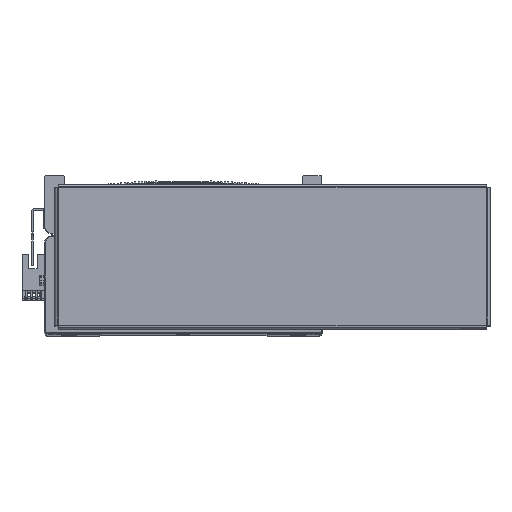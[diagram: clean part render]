
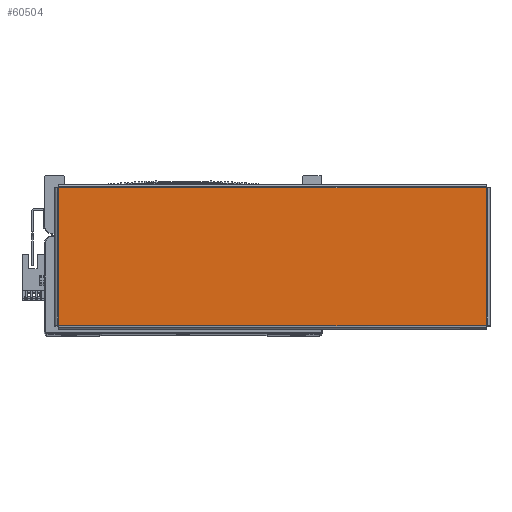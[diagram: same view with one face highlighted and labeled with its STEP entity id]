
A CAD part, top view. The second image highlights one B-rep face of the part: STEP entity #60504.
In plain terms, the highlighted planar face has unit normal (0, 0, 1) as drawn and (0, -1, 0) by its records, which use the part's own axes.
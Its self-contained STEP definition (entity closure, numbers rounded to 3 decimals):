
#7673 = ORIENTED_EDGE ( 'NONE', *, *, #65325, .T. ) ;
#7744 = ORIENTED_EDGE ( 'NONE', *, *, #65262, .T. ) ;
#7752 = ORIENTED_EDGE ( 'NONE', *, *, #65406, .T. ) ;
#7773 = ORIENTED_EDGE ( 'NONE', *, *, #65265, .T. ) ;
#9011 = AXIS2_PLACEMENT_3D ( 'NONE', #63064, #63065, #63075 ) ;
#12216 = FACE_OUTER_BOUND ( 'NONE', #32462, .T. ) ;
#18702 = CARTESIAN_POINT ( 'NONE',  ( 130.863, -1.5, -42.263 ) ) ;
#18737 = CARTESIAN_POINT ( 'NONE',  ( -130.863, -1.5, 42.263 ) ) ;
#18773 = CARTESIAN_POINT ( 'NONE',  ( -130.863, -1.5, -42.263 ) ) ;
#18808 = CARTESIAN_POINT ( 'NONE',  ( 130.863, -1.5, 42.263 ) ) ;
#32462 = EDGE_LOOP ( 'NONE', ( #7752, #7744, #7773, #7673 ) ) ;
#42067 = DIRECTION ( 'NONE',  ( 0., 0., -1. ) ) ;
#42069 = DIRECTION ( 'NONE',  ( -1., 0., 0. ) ) ;
#42076 = CARTESIAN_POINT ( 'NONE',  ( 130.893, -1.5, 42.263 ) ) ;
#42097 = CARTESIAN_POINT ( 'NONE',  ( -130.863, -1.5, 42.293 ) ) ;
#42245 = DIRECTION ( 'NONE',  ( 1., 0., 0. ) ) ;
#42274 = CARTESIAN_POINT ( 'NONE',  ( -130.893, -1.5, -42.263 ) ) ;
#42491 = CARTESIAN_POINT ( 'NONE',  ( 130.863, -1.5, -42.293 ) ) ;
#42504 = DIRECTION ( 'NONE',  ( 0., 0., 1. ) ) ;
#47855 = VERTEX_POINT ( 'NONE', #18702 ) ;
#47857 = VERTEX_POINT ( 'NONE', #18737 ) ;
#47896 = VERTEX_POINT ( 'NONE', #18773 ) ;
#47934 = VERTEX_POINT ( 'NONE', #18808 ) ;
#54827 = LINE ( 'NONE', #42097, #54859 ) ;
#54850 = LINE ( 'NONE', #42076, #54867 ) ;
#54859 = VECTOR ( 'NONE', #42067, 1000. ) ;
#54867 = VECTOR ( 'NONE', #42069, 1000. ) ;
#54925 = VECTOR ( 'NONE', #42245, 1000. ) ;
#54939 = LINE ( 'NONE', #42274, #54925 ) ;
#54972 = LINE ( 'NONE', #42491, #54979 ) ;
#54979 = VECTOR ( 'NONE', #42504, 1000. ) ;
#60504 = ADVANCED_FACE ( 'NONE', ( #12216 ), #63018, .F. ) ;
#63018 = PLANE ( 'NONE',  #9011 ) ;
#63064 = CARTESIAN_POINT ( 'NONE',  ( 0., -1.5, 0. ) ) ;
#63065 = DIRECTION ( 'NONE',  ( 0., 1., 0. ) ) ;
#63075 = DIRECTION ( 'NONE',  ( 0., 0., 1. ) ) ;
#65262 = EDGE_CURVE ( 'NONE', #47934, #47857, #54850, .T. ) ;
#65265 = EDGE_CURVE ( 'NONE', #47857, #47896, #54827, .T. ) ;
#65325 = EDGE_CURVE ( 'NONE', #47896, #47855, #54939, .T. ) ;
#65406 = EDGE_CURVE ( 'NONE', #47855, #47934, #54972, .T. ) ;
